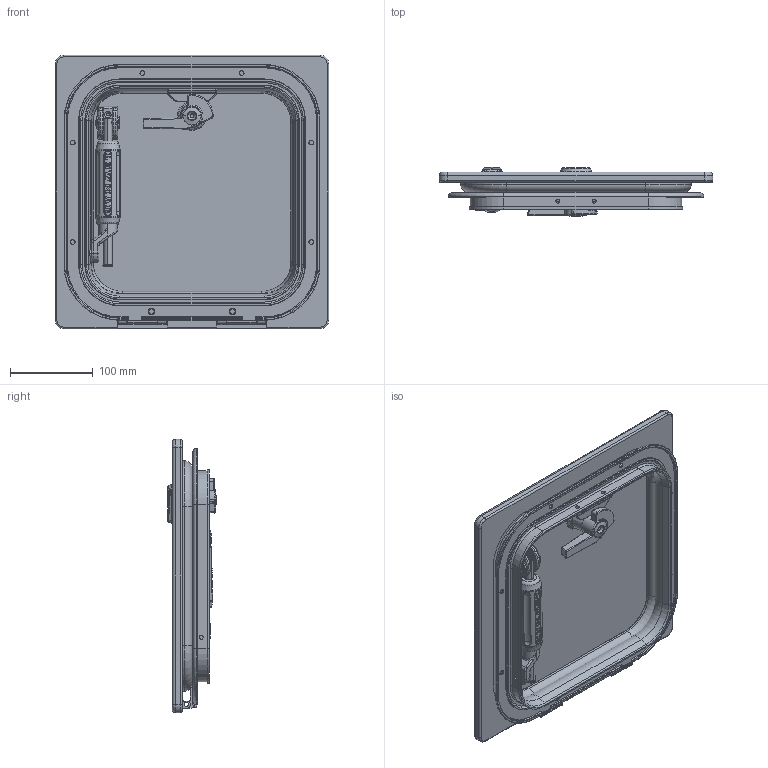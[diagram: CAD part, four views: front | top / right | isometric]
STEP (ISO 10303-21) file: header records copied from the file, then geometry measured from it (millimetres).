
FILE_DESCRIPTION((''),'2;1');
FILE_NAME('39910X1Y_ASM','2009-10-23T',('AWickes'),(''),'PRO/ENGINEER BY PARAMETRIC TECHNOLOGY CORPORATION, 2007030','PRO/ENGINEER BY PARAMETRIC TECHNOLOGY CORPORATION, 2007030','');
FILE_SCHEMA(('CONFIG_CONTROL_DESIGN'));
Length unit declared in the file: millimetre
Products named in the file (22): 35002010Y; 35001767_AF0; 35001781_AF0; 35001706; 38002010Y_AF1_ASM; 35000998Z; 35002009X_AF1; 35001707Z_AF0; 35001709Z_AF0; 35001954Y_AF0; 35001954Y_AF1; 35001825Z_AF0; 35001823Z_AF0; 15801312; 15801315; 39910X1Y_SEAL_AF1; 38002009X_AF1_ASM; 35001703_AF1; 35001704_AF0; 35001043_AF0; 38001768Z_AF2_ASM; 39910X1Y_ASM
Assembly tree (21 placements, depth 3):
  39910X1Y_ASM
    38002010Y_AF1_ASM
      35002010Y
      35001767_AF0
      35001781_AF0
      35001706
    35000998Z
    38002009X_AF1_ASM
      35002009X_AF1
      35001707Z_AF0
      35001709Z_AF0
      35001954Y_AF0
      35001954Y_AF1
      35001825Z_AF0
      35001823Z_AF0
      15801312
      15801315
      39910X1Y_SEAL_AF1
    38001768Z_AF2_ASM
      35001703_AF1
      35001704_AF0
      35001043_AF0
Bounding box: 330 x 59.39 x 330 mm (x, y, z)
Volume: 1758914.2 mm3; surface area: 531285.3 mm2
Topology: 20 solids, 21 shells, 1667 faces, 4181 edges, 2597 vertices
Faces by surface type: cylinder 650, plane 531, bspline 175, torus 165, cone 103, sphere 38, extrusion 5
Entity records: 67021 total; most frequent: CARTESIAN_POINT 27224, ORIENTED_EDGE 8342, DIRECTION 8232, EDGE_CURVE 4171, AXIS2_PLACEMENT_3D 3190, VERTEX_POINT 2597, VECTOR 1852, LINE 1847
